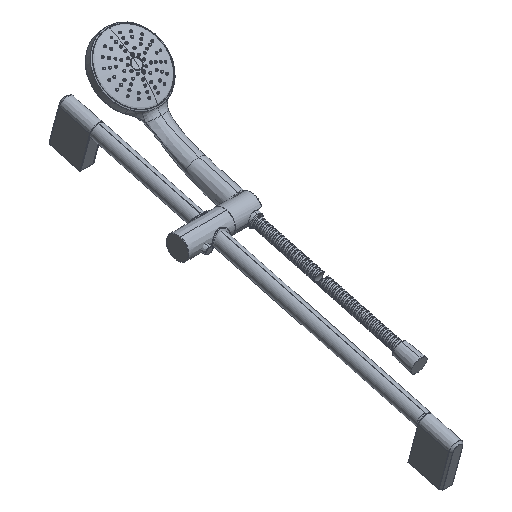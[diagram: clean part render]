
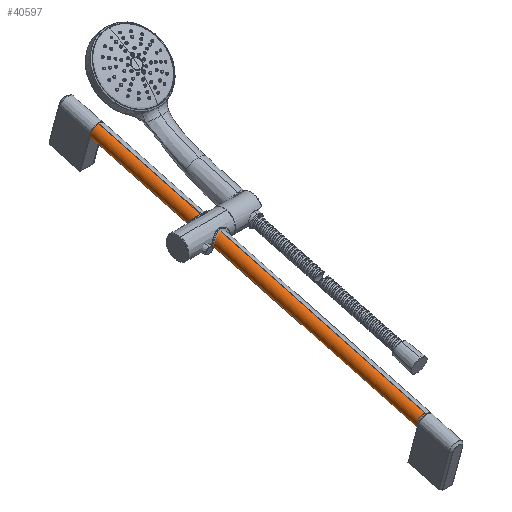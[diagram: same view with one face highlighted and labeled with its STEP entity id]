
A CAD part, isometric view. The second image highlights one B-rep face of the part: STEP entity #40597.
In plain terms, the highlighted cylindrical face has radius 10.3 mm (diameter 20.6 mm), a partial arc.
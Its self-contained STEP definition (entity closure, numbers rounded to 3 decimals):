
#40427=DIRECTION('',(0.,0.966,0.259));
#40428=VECTOR('',#40427,5.);
#40429=CARTESIAN_POINT('',(-52.4,-288.879,-68.097));
#40430=LINE('',#40429,#40428);
#40431=CARTESIAN_POINT('',(-52.4,-284.049,-66.803));
#40432=CARTESIAN_POINT('',(-52.4,-283.785,-66.732));
#40433=CARTESIAN_POINT('',(-52.297,-283.294,
-66.623));
#40434=CARTESIAN_POINT('',(-51.853,-282.62,
-66.522));
#40435=CARTESIAN_POINT('',(-51.178,-282.172,
-66.482));
#40436=CARTESIAN_POINT('',(-50.674,-282.066,
-66.475));
#40437=CARTESIAN_POINT('',(-50.4,-282.066,-66.475));
#40439=DIRECTION('',(0.,-0.966,-0.259));
#40440=VECTOR('',#40439,500.);
#40441=CARTESIAN_POINT('',(-50.4,188.803,81.021));
#40442=LINE('',#40441,#40440);
#40443=CARTESIAN_POINT('',(-50.4,-291.494,-58.338));
#40444=DIRECTION('',(0.,-0.966,-0.259));
#40445=DIRECTION('',(0.,-0.259,0.966));
#40446=AXIS2_PLACEMENT_3D('',#40443,#40444,#40445);
#40517=DIRECTION('',(0.,-0.966,-0.259));
#40518=VECTOR('',#40517,493.);
#40519=CARTESIAN_POINT('',(-50.4,194.135,61.123));
#40520=LINE('',#40519,#40518);
#40529=CARTESIAN_POINT('',(-50.4,191.469,71.072));
#40530=DIRECTION('',(0.,-0.966,-0.259));
#40531=DIRECTION('',(0.,-0.259,0.966));
#40532=AXIS2_PLACEMENT_3D('',#40529,#40530,#40531);
#40547=CARTESIAN_POINT('',(-52.4,-288.879,-68.097));
#40548=CARTESIAN_POINT('',(-52.4,-284.049,-66.803));
#40549=VERTEX_POINT('',#40547);
#40550=VERTEX_POINT('',#40548);
#40551=VERTEX_POINT('',#40437);
#40552=CARTESIAN_POINT('',(-50.4,194.135,61.123));
#40553=VERTEX_POINT('',#40552);
#40554=CARTESIAN_POINT('',(-50.4,188.803,81.021));
#40555=VERTEX_POINT('',#40554);
#40556=CARTESIAN_POINT('',(-50.4,-294.159,-48.389));
#40557=VERTEX_POINT('',#40556);
#40578=CARTESIAN_POINT('',(-50.4,-315.642,-64.808));
#40579=DIRECTION('',(0.,0.966,0.259));
#40580=DIRECTION('',(0.,0.259,-0.966));
#40581=AXIS2_PLACEMENT_3D('',#40578,#40579,#40580);
#40582=CYLINDRICAL_SURFACE('',#40581,10.3);
#40584=ORIENTED_EDGE('',*,*,#40583,.T.);
#40586=ORIENTED_EDGE('',*,*,#40585,.T.);
#40588=ORIENTED_EDGE('',*,*,#40587,.F.);
#40590=ORIENTED_EDGE('',*,*,#40589,.F.);
#40592=ORIENTED_EDGE('',*,*,#40591,.T.);
#40594=ORIENTED_EDGE('',*,*,#40593,.T.);
#40595=EDGE_LOOP('',(#40584,#40586,#40588,#40590,#40592,#40594));
#40596=FACE_OUTER_BOUND('',#40595,.F.);
#40597=ADVANCED_FACE('',(#40596),#40582,.T.);
#40438=B_SPLINE_CURVE_WITH_KNOTS('',3,(#40431,#40432,#40433,#40434,#40435,
#40436,#40437),.UNSPECIFIED.,.F.,.F.,(4,1,1,1,4),(0.,0.25,0.5,0.75,
1.),.UNSPECIFIED.);
#40447=CIRCLE('',#40446,10.3);
#40533=CIRCLE('',#40532,10.3);
#40583=EDGE_CURVE('',#40549,#40550,#40430,.T.);
#40585=EDGE_CURVE('',#40550,#40551,#40438,.T.);
#40587=EDGE_CURVE('',#40553,#40551,#40520,.T.);
#40589=EDGE_CURVE('',#40555,#40553,#40533,.T.);
#40591=EDGE_CURVE('',#40555,#40557,#40442,.T.);
#40593=EDGE_CURVE('',#40557,#40549,#40447,.T.);
